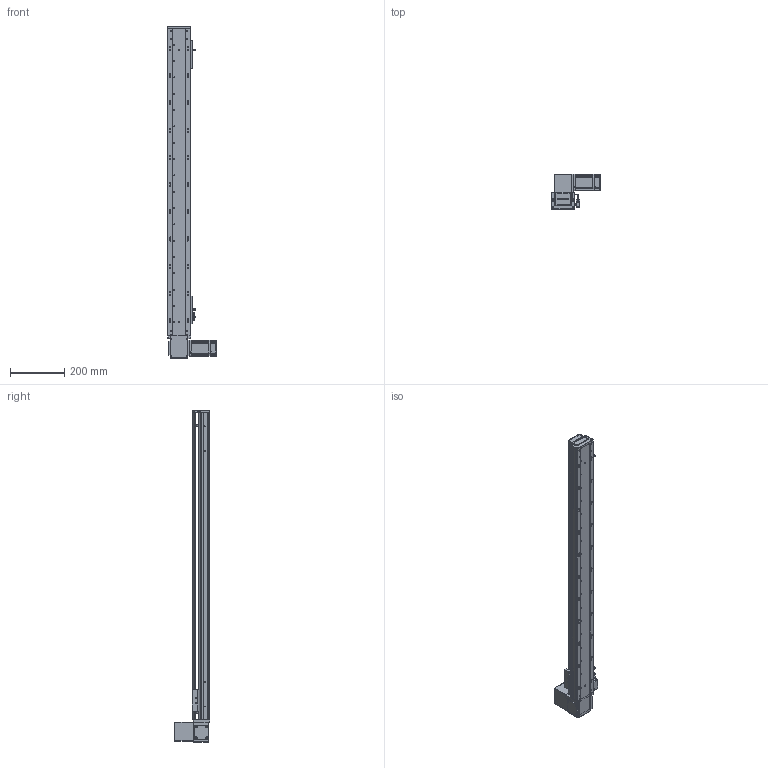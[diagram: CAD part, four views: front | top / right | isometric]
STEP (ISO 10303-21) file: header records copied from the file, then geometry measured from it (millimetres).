
FILE_DESCRIPTION (( 'STEP AP203' ), '1' );
FILE_NAME ('RY80-T-300-UR.SLDASM_950.step', '2021-03-01T02:26:38', ( '盈信电脑' ), ( '东莞市道滘镇水果街19号' ), 'SwSTEP 2.0', 'SolidWorks 2012', '' );
FILE_SCHEMA (( 'CONFIG_CONTROL_DESIGN' ));
Length unit declared in the file: millimetre
Products named in the file (20): RY80-T-300-UR.SLDASM_950; RY80-T-M4蹟翐2; RY80-T萇儂假蚾啣; RY80-T肮祭謫奻殏俋欶; RY80-T-上下折同步轮盖板; RY100-T粣創揤踡裔; 1; RY80-T翋肮祭謫裔啣; RY80-T肮祭湍揤輸1; RY80-T粣創揤踡輸; RY80-T肮祭湍揤輸2; 滅袉蝶18-10; 覜茼ん672; RY80-T-翋肮祭謫釱; RY80俋离覜茼え; 672嫖萇羲壽假蚾釱; RY80-T-300-UR倰第奻裔啣_950; RY80-T肮祭謫臏賑輸; RY80-T綴裔啣; RY80-T-300-UR倰第菁釱_950
Assembly tree (23 placements, depth 2):
  RY80-T-300-UR.SLDASM_950
    RY80-T-300-UR倰第菁釱_950
    RY80-T肮祭謫臏賑輸
    RY80-T-300-UR倰第奻裔啣_950
    RY80-T綴裔啣
    672嫖萇羲壽假蚾釱  x2
    覜茼ん672  x3
    RY80俋离覜茼え
    RY80-T-翋肮祭謫釱
    RY80-T肮祭湍揤輸1
    RY80-T肮祭湍揤輸2
    RY80-T粣創揤踡輸
    滅袉蝶18-10  x2
    RY100-T粣創揤踡裔
    RY80-T翋肮祭謫裔啣
    RY80-T-上下折同步轮盖板
    1
    RY80-T肮祭謫奻殏俋欶
    RY80-T-M4蹟翐2
    RY80-T萇儂假蚾啣
Bounding box: 180 x 130.5 x 1220 mm (x, y, z)
Volume: 2120674.4 mm3; surface area: 888610.3 mm2
Topology: 23 solids, 23 shells, 2630 faces, 7290 edges, 4738 vertices
Faces by surface type: plane 1369, cylinder 1060, cone 145, bspline 56
Entity records: 85648 total; most frequent: CARTESIAN_POINT 21736, ORIENTED_EDGE 13224, DIRECTION 12274, EDGE_CURVE 6612, VERTEX_POINT 4342, AXIS2_PLACEMENT_3D 4172, VECTOR 3930, LINE 3930
